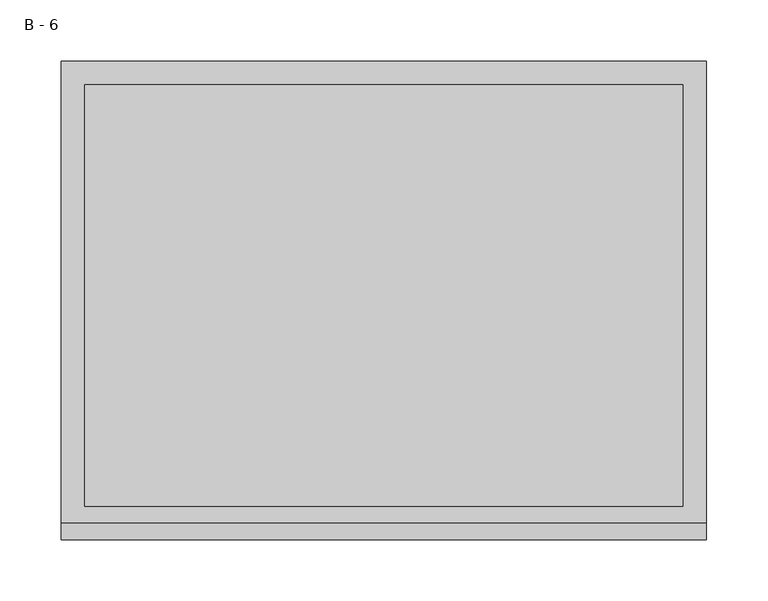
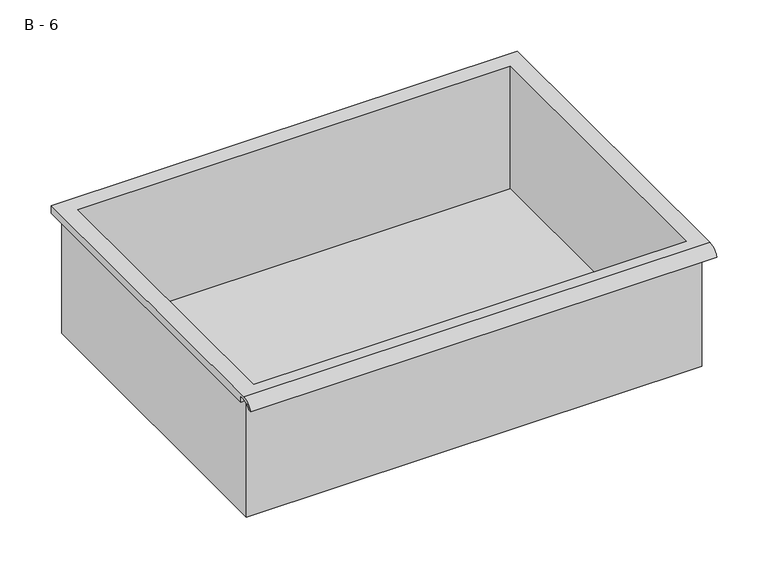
"""IFC4 building model written with IfcOpenShell, lengths in millimetres: furniture geometry, HermanMiller_CoStruc_CO207_Drawer : B - 6."""

from ifc_helpers import new_model, si_unit, frame, origin, place, context, project, spatial, polyline, circle_curve, source, transform, mapped, element, save
from ifc_brep_helpers import plane_surface, cylinder_surface, revolved_surface, advanced_brep


def b_6_2be62e06(model_context):
    return source(origin(), model_context, "Body", "AdvancedBrep", [
        advanced_brep(
        [(-257.1076517, -176.2125, 430.2252), (257.2423483, -176.2125, 430.2252), (257.2423483, -176.2125, 569.9252), (263.5923483, -176.2125, 569.9252), (263.5923483, -176.2125, 576.2323341), (-263.4576517, -176.2125, 576.2323341), (-263.4576517, -176.2125, 569.9252), (-257.1076517, -176.2125, 569.9252), (257.2423483, 185.7375, 430.2252), (-257.1076517, 185.7375, 430.2252), (-257.1076517, 185.7375, 569.9252), (257.2423483, 185.7375, 569.9252), (263.5923483, -181.6070544, 579.4502), (263.5923483, 195.2625, 579.4502), (-263.4576517, 195.2625, 579.4502), (-263.4576517, -181.6070544, 579.4502), (244.5423483, -168.275, 579.4502), (-244.4076517, -168.275, 579.4502), (-244.4076517, 176.2125, 579.4502), (244.5423483, 176.2125, 579.4502), (263.5923483, -195.2625, 569.9252), (263.5923483, -191.8280601, 569.9252), (263.5923483, -180.4714815, 576.2323341), (263.5923483, 195.2625, 569.9252), (-263.4576517, 195.2625, 569.9252), (-263.4576517, -180.4714815, 576.2323341), (-263.4576517, -191.8280601, 569.9252), (-263.4576517, -195.2625, 569.9252), (-244.4076517, -168.275, 433.2513719), (244.5423483, -168.275, 433.2513719), (244.5423483, 176.2125, 433.2513719), (-244.4076517, 176.2125, 433.2513719)],
        [
            (0, 1),
            (1, 2),
            (2, 3),
            (3, 4),
            (4, 5),
            (5, 6),
            (6, 7),
            (7, 0),
            (8, 9),
            (9, 10),
            (10, 11),
            (11, 8),
            (0, 9),
            (8, 1),
            (11, 2),
            (12, 13),
            (13, 14),
            (14, 15),
            (15, 12),
            (16, 17),
            (17, 18),
            (18, 19),
            (19, 16),
            (7, 10),
            (12, 20, circle_curve(frame((263.5923483, -181.6070544, 564.8991859), z_axis=(1.0, 0.0, 0.0), x_axis=(0.0, 1.0, 0.0)), 14.5510141)),
            (20, 21),
            (21, 22, circle_curve(frame((263.5923483, -181.6070544, 564.8991859), z_axis=(-1.0, 0.0, 0.0), x_axis=(0.0, 1.0, 0.0)), 11.3898979)),
            (22, 4),
            (3, 23),
            (23, 13),
            (14, 24),
            (24, 6),
            (5, 25),
            (25, 26, circle_curve(frame((-263.4576517, -181.6070544, 564.8991859), z_axis=(1.0, 0.0, 0.0), x_axis=(0.0, 1.0, 0.0)), 11.3898979)),
            (26, 27),
            (27, 15, circle_curve(frame((-263.4576517, -181.6070544, 564.8991859), z_axis=(-1.0, 0.0, 0.0), x_axis=(0.0, 1.0, 0.0)), 14.5510141)),
            (27, 20),
            (26, 21),
            (25, 22),
            (24, 23),
            (28, 29),
            (29, 30),
            (30, 31),
            (31, 28),
            (28, 17),
            (16, 29),
            (19, 30),
            (18, 31),
        ],
        [
            plane_surface(frame((257.2423483, -176.2125, 430.2252), z_axis=(0.0, -1.0, 0.0), x_axis=(1.0, 0.0, 0.0))),
            plane_surface(frame((257.2423483, 185.7375, 430.2252), z_axis=(0.0, 1.0, 0.0), x_axis=(-1.0, 0.0, 0.0))),
            plane_surface(frame((-257.1076517, -176.2125, 430.2252), z_axis=(0.0, 0.0, -1.0), x_axis=(0.0, 1.0, 0.0))),
            plane_surface(frame((257.2423483, -176.2125, 430.2252), z_axis=(1.0, 0.0, 0.0), x_axis=(0.0, 1.0, 0.0))),
            plane_surface(frame((257.2423483, -176.2125, 579.4502), z_axis=(0.0, 0.0, 1.0), x_axis=(0.0, 1.0, 0.0))),
            plane_surface(frame((-257.1076517, -176.2125, 579.4502), z_axis=(-1.0, 0.0, 0.0), x_axis=(0.0, 1.0, 0.0))),
            plane_surface(frame((263.5923483, 195.2625, 579.4502), z_axis=(1.0, 0.0, 0.0), x_axis=(0.0, -1.0, 0.0))),
            plane_surface(frame((-263.4576517, 195.2625, 579.4502), z_axis=(-1.0, 0.0, 0.0), x_axis=(0.0, 1.0, 0.0))),
            cylinder_surface(frame((-263.4576517, -181.6070544, 564.8991859), z_axis=(1.0, 0.0, 0.0), x_axis=(0.0, 1.0, 0.0)), 14.5510141),
            plane_surface(frame((263.5923483, -195.2625, 569.9252), z_axis=(0.0, -7.2321151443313e-12, -1.0), x_axis=(-1.0, 0.0, 0.0))),
            revolved_surface(polyline([(-263.4576517, -170.21715650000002, 564.8991859), (263.59234829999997, -170.21715650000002, 564.8991859)]), (-263.4576517, -181.6070544, 564.8991859), (-1.0, 0.0, 0.0)),
            plane_surface(frame((263.5923483, -180.4714815, 576.2323341), z_axis=(0.0, -1.789319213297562e-11, -1.0), x_axis=(-1.0, 0.0, 0.0))),
            plane_surface(frame((263.5923483, -176.2125, 569.9252), z_axis=(0.0, 0.0, -1.0), x_axis=(-1.0, 0.0, 0.0))),
            plane_surface(frame((263.5923483, 195.2625, 569.9252), z_axis=(0.0, 1.0, 0.0), x_axis=(-1.0, 0.0, 0.0))),
            plane_surface(frame((244.5423483, -168.275, 433.2513719), z_axis=(0.0, 0.0, 1.0), x_axis=(-1.0, 0.0, 0.0))),
            plane_surface(frame((-244.4076517, -168.275, 579.4502), z_axis=(0.0, 1.0, 0.0), x_axis=(0.0, 0.0, -1.0))),
            plane_surface(frame((244.5423483, -168.275, 579.4502), z_axis=(-1.0, 0.0, 0.0), x_axis=(0.0, 0.0, -1.0))),
            plane_surface(frame((244.5423483, 176.2125, 579.4502), z_axis=(0.0, -1.0, 0.0), x_axis=(0.0, 0.0, -1.0))),
            plane_surface(frame((-244.4076517, 176.2125, 579.4502), z_axis=(1.0, 0.0, 0.0), x_axis=(0.0, 0.0, -1.0))),
        ],
        [
            (0, [[1, 2, 3, 4, 5, 6, 7, 8]]),
            (1, [[9, 10, 11, 12]]),
            (2, [[-1, 13, -9, 14]]),
            (3, [[-14, -12, 15, -2]]),
            (4, [[16, 17, 18, 19], [20, 21, 22, 23]]),
            (5, [[-13, -8, 24, -10]]),
            (6, [[-16, 25, 26, 27, 28, -4, 29, 30]]),
            (7, [[31, 32, -6, 33, 34, 35, 36, -18]]),
            (8, [[-25, -19, -36, 37]]),
            (9, [[-26, -37, -35, 38]]),
            (10, [[-27, -38, -34, 39]]),
            (11, [[-28, -39, -33, -5]]),
            (12, [[-29, -3, -15, -11, -24, -7, -32, 40]]),
            (13, [[-30, -40, -31, -17]]),
            (14, [[41, 42, 43, 44]]),
            (15, [[-41, 45, -20, 46]]),
            (16, [[-42, -46, -23, 47]]),
            (17, [[-43, -47, -22, 48]]),
            (18, [[-44, -48, -21, -45]]),
        ],
    ),
    ])


if __name__ == "__main__":
    model = new_model("IFC4")
    model_context = context("Model", 3, world=origin())
    ifc_project = project(units=[si_unit("LENGTHUNIT", "METRE", prefix="MILLI")], contexts=[model_context])
    site = spatial("IfcSite", under=ifc_project)
    building = spatial("IfcBuilding", under=site)
    placement = place(None, origin())
    b_6_shape = b_6_2be62e06(model_context)
    element("IfcFurniture", 1, ObjectType="HermanMiller_CoStruc_CO207_Drawer : B - 6", at=placement, inside=building, context=model_context, shape_type="MappedRepresentation", body=[
        mapped(b_6_shape, transform((0.0, 0.0, 0.0), x_axis=(1.0, 0.0, 0.0), y_axis=(0.0, 1.0, 0.0), z_axis=(0.0, 0.0, 1.0))),
    ])
    save(model, "model.ifc")
